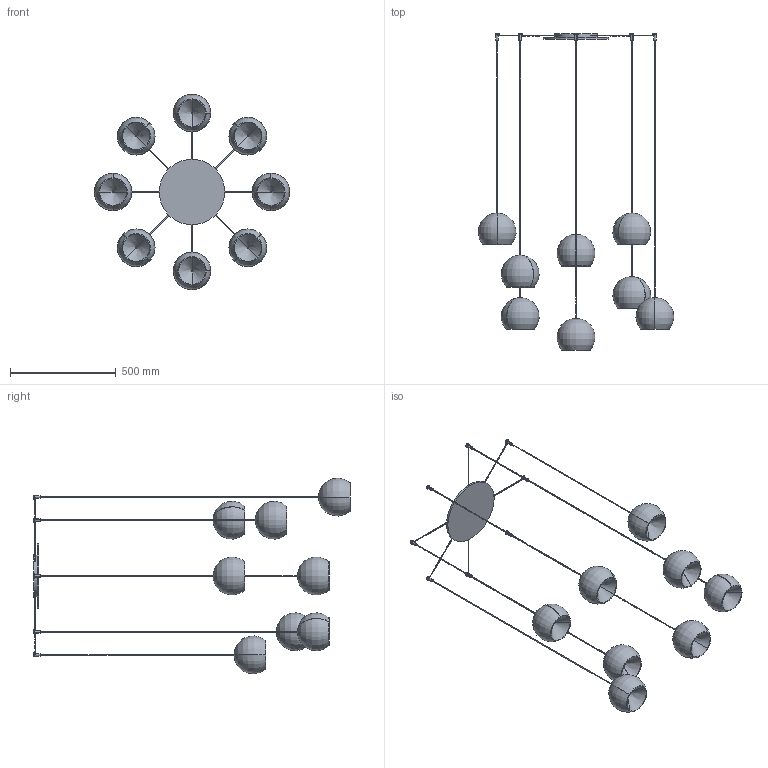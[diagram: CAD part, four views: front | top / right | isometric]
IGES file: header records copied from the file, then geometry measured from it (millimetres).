
Start section: SolidWorks IGES file using analytic representation for surfaces
Global section: file name: Y:\eforma\TECNICO\SOLIDWORKS\E-FORMA\09-LAMPADE\CHERRY\08 modelli 3D web\CHR08-00-CHERRY_8 sospensione.IGS; native system: SolidWorks 2022; preprocessor: SolidWorks 2022; author: eforma.tech; date: 240801.143842; units: millimetre
Bounding box: 927.44 x 1500 x 927.44 mm (x, y, z)
Volume: 2856814.7 mm3; surface area: 1998005.5 mm2
Topology: 41 solids, 41 shells, 304 faces, 643 edges, 406 vertices
Faces by surface type: revolution 211, plane 93
